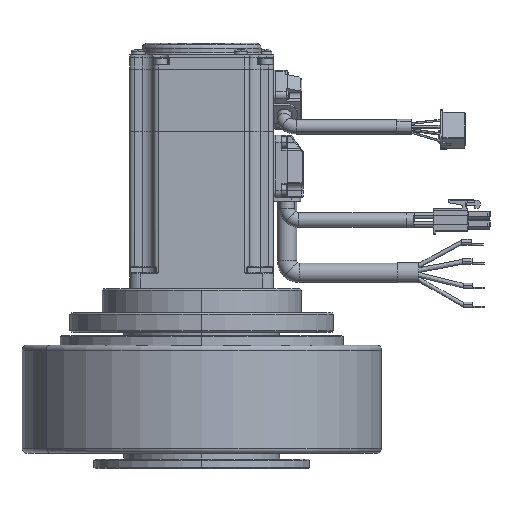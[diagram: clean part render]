
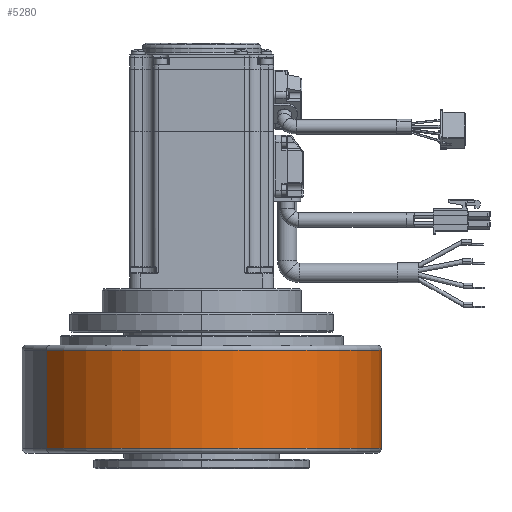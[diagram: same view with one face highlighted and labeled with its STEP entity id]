
A CAD part, front view. The second image highlights one B-rep face of the part: STEP entity #5280.
In plain terms, the highlighted cylindrical face has radius 75 mm (diameter 150 mm), a partial arc.
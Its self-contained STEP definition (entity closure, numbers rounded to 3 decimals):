
#1394=CARTESIAN_POINT('',(2.,0.,0.));
#1395=DIRECTION('',(1.,0.,0.));
#1396=DIRECTION('',(0.,0.,-1.));
#1397=AXIS2_PLACEMENT_3D('',#1394,#1395,#1396);
#1404=DIRECTION('',(-1.,0.,0.));
#1405=VECTOR('',#1404,41.);
#1406=CARTESIAN_POINT('',(43.,0.,75.));
#1407=LINE('',#1406,#1405);
#1413=CARTESIAN_POINT('',(43.,0.,0.));
#1414=DIRECTION('',(-1.,0.,0.));
#1415=DIRECTION('',(0.,0.,1.));
#1416=AXIS2_PLACEMENT_3D('',#1413,#1414,#1415);
#1448=DIRECTION('',(-1.,0.,0.));
#1449=VECTOR('',#1448,41.);
#1450=CARTESIAN_POINT('',(43.,0.,-75.));
#1451=LINE('',#1450,#1449);
#4276=CARTESIAN_POINT('',(2.,0.,-75.));
#4277=CARTESIAN_POINT('',(2.,0.,75.));
#4278=VERTEX_POINT('',#4276);
#4279=VERTEX_POINT('',#4277);
#4280=CARTESIAN_POINT('',(43.,0.,75.));
#4281=CARTESIAN_POINT('',(43.,0.,-75.));
#4282=VERTEX_POINT('',#4280);
#4283=VERTEX_POINT('',#4281);
#5266=CARTESIAN_POINT('',(0.,0.,0.));
#5267=DIRECTION('',(-1.,0.,0.));
#5268=DIRECTION('',(0.,0.,1.));
#5269=AXIS2_PLACEMENT_3D('',#5266,#5267,#5268);
#5270=CYLINDRICAL_SURFACE('',#5269,75.);
#5272=ORIENTED_EDGE('',*,*,#5271,.F.);
#5274=ORIENTED_EDGE('',*,*,#5273,.T.);
#5275=ORIENTED_EDGE('',*,*,#5256,.F.);
#5277=ORIENTED_EDGE('',*,*,#5276,.F.);
#5278=EDGE_LOOP('',(#5272,#5274,#5275,#5277));
#5279=FACE_OUTER_BOUND('',#5278,.F.);
#5280=ADVANCED_FACE('',(#5279),#5270,.T.);
#1398=CIRCLE('',#1397,75.);
#1417=CIRCLE('',#1416,75.);
#5256=EDGE_CURVE('',#4278,#4279,#1398,.T.);
#5271=EDGE_CURVE('',#4282,#4283,#1417,.T.);
#5273=EDGE_CURVE('',#4282,#4279,#1407,.T.);
#5276=EDGE_CURVE('',#4283,#4278,#1451,.T.);
